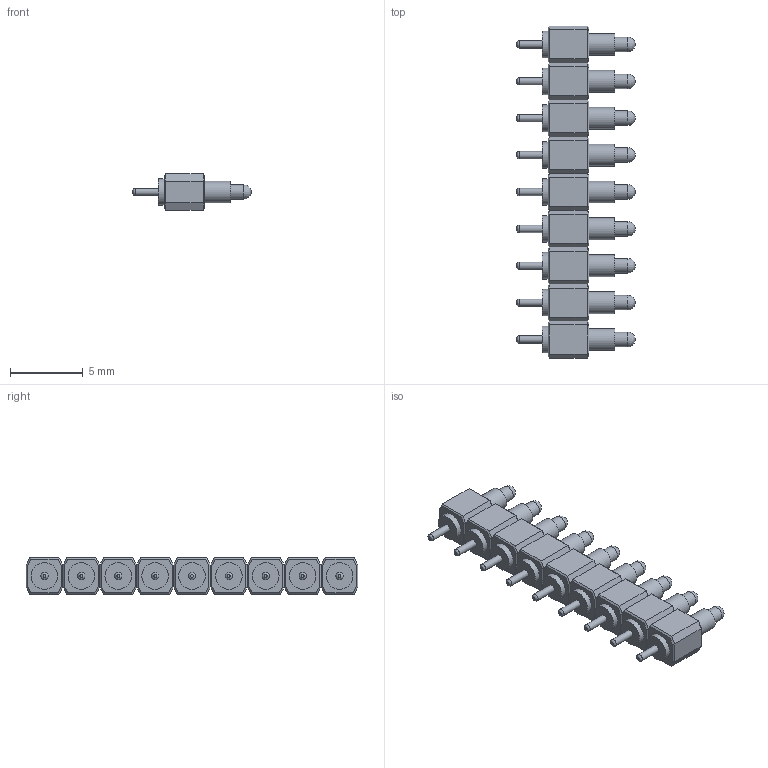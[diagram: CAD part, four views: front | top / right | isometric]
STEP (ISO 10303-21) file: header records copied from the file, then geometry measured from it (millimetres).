
FILE_DESCRIPTION(('FreeCAD Model'),'2;1');
FILE_NAME('Open CASCADE Shape Model','2024-10-25T12:06:20',('Author'),( ''),'Open CASCADE STEP processor 7.5','FreeCAD','Unknown');
FILE_SCHEMA(('AUTOMOTIVE_DESIGN { 1 0 10303 214 1 1 1 1 }'));
Length unit declared in the file: millimetre
Products named in the file (28): 816-22-009; P115; Body230; Contact113; P113; Body224; Contact114; P121; Body226; Contact115; P116; Body225; Contact120; P125; Body249; Contact121; P117; Body242; Contact123; P119; Body241; Contact122; P127; Body245; Contact124; P122; Body252; Contact125
Assembly tree (27 placements, depth 3):
  816-22-009
    P115
      Body230
      Contact113
    P113
      Body224
      Contact114
    P121
      Body226
      Contact115
    P116
      Body225
      Contact120
    P125
      Body249
      Contact121
    P117
      Body242
      Contact123
    P119
      Body241
      Contact122
    P127
      Body245
      Contact124
    P122
      Body252
      Contact125
Bounding box: 8.15 x 22.86 x 2.54 mm (x, y, z)
Volume: 204.5 mm3; surface area: 742.8 mm2
Topology: 18 solids, 18 shells, 342 faces, 675 edges, 396 vertices
Faces by surface type: plane 279, cylinder 45, revolution 18
Full cylindrical faces by diameter (mm): 0.5 x9, 1 x9, 1.5 x18, 1.83 x9
Entity records: 18118 total; most frequent: CARTESIAN_POINT 2971, DIRECTION 2864, LINE 1809, VECTOR 1809, ORIENTED_EDGE 1350, PCURVE 1350, DEFINITIONAL_REPRESENTATION 1350, EDGE_CURVE 675
